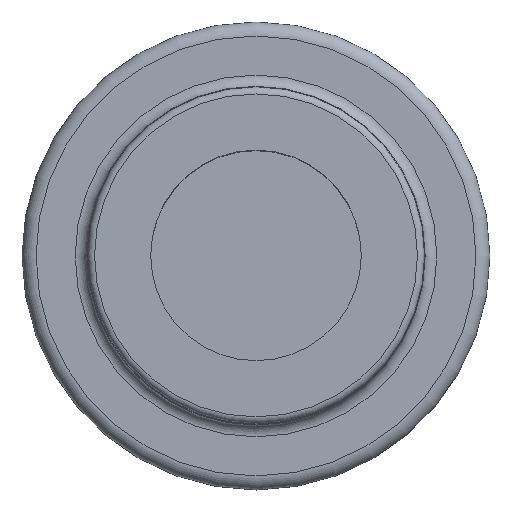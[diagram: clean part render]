
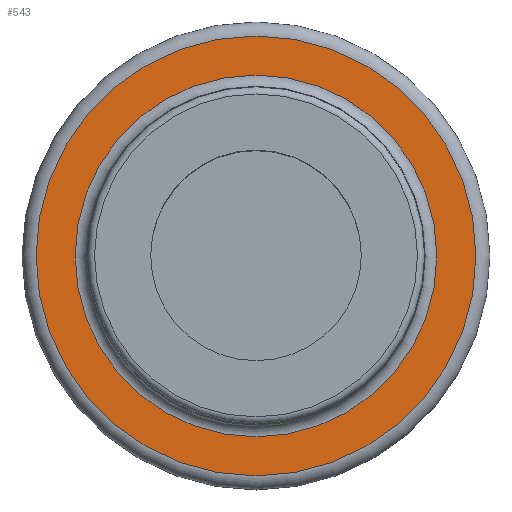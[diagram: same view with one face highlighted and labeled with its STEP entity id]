
A CAD part, top view. The second image highlights one B-rep face of the part: STEP entity #543.
In plain terms, the highlighted planar face has unit normal (0, 0, 1).
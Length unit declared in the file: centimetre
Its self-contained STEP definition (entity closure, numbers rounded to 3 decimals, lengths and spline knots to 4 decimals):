
#167=VERTEX_POINT('',#807);
#169=VERTEX_POINT('',#812);
#209=CIRCLE('',#585,1.9634);
#211=CIRCLE('',#588,2.3876);
#251=EDGE_CURVE('',#167,#167,#209,.T.);
#253=EDGE_CURVE('',#169,#169,#211,.T.);
#315=ORIENTED_EDGE('',*,*,#253,.F.);
#316=ORIENTED_EDGE('',*,*,#251,.F.);
#435=EDGE_LOOP('',(#315));
#436=EDGE_LOOP('',(#316));
#491=FACE_BOUND('',#435,.T.);
#492=FACE_BOUND('',#436,.T.);
#543=ADVANCED_FACE('',(#491,#492),#1320,.T.);
#585=AXIS2_PLACEMENT_3D('',#806,#666,#667);
#587=AXIS2_PLACEMENT_3D('',#810,#670,$);
#588=AXIS2_PLACEMENT_3D('',#811,#671,#672);
#666=DIRECTION('',(0.,0.,1.));
#667=DIRECTION('',(1.963,0.,0.));
#670=DIRECTION('',(0.,0.,1.));
#671=DIRECTION('',(0.,0.,-1.));
#672=DIRECTION('',(-2.388,0.,0.));
#806=CARTESIAN_POINT('',(0.,0.,-3.4036));
#807=CARTESIAN_POINT('',(-1.9634,0.,-3.4036));
#810=CARTESIAN_POINT('',(0.,0.,-3.4036));
#811=CARTESIAN_POINT('',(0.,0.,-3.4036));
#812=CARTESIAN_POINT('',(2.3876,0.,-3.4036));
#1320=PLANE('',#587);
